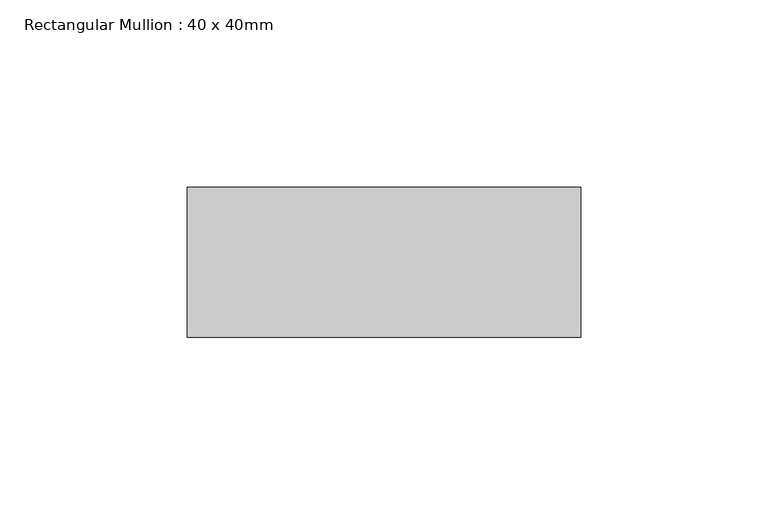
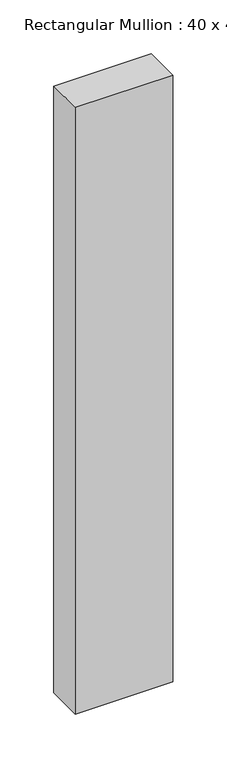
"""IFC4 building model written with IfcOpenShell, lengths in millimetres: member geometry, Rectangular Mullion : 40 x 40mm."""

from ifc_helpers import new_model, si_unit, frame, origin, place, context, project, spatial, polyline, outline, extrude, source, transform, mapped, element, save


def rectangular_mullion_40_x_40mm_43d5a151(model_context):
    return source(origin(), model_context, "Body", "SweptSolid", [
        extrude(outline(polyline([(80.0, -20.0), (80.0, -60.0), (-25.0, -60.0), (-25.0, -20.0), (80.0, -20.0)])), frame((0.0, 0.0, -690.0), z_axis=(0.0, 0.0, 1.0), x_axis=(1.0, 0.0, 0.0)), (0.0, 0.0, 1.0), 690.0),
    ])


if __name__ == "__main__":
    model = new_model("IFC4")
    model_context = context("Model", 3, world=origin())
    ifc_project = project(units=[si_unit("LENGTHUNIT", "METRE", prefix="MILLI")], contexts=[model_context])
    site = spatial("IfcSite", under=ifc_project)
    building = spatial("IfcBuilding", under=site)
    placement = place(None, origin())
    rectangular_mullion_40_x_40mm_shape = rectangular_mullion_40_x_40mm_43d5a151(model_context)
    element("IfcMember", 1, ObjectType="Rectangular Mullion : 40 x 40mm", at=placement, inside=building, context=model_context, shape_type="MappedRepresentation", body=[
        mapped(rectangular_mullion_40_x_40mm_shape, transform((0.0, 0.0, 0.0), x_axis=(1.0, 0.0, 0.0), y_axis=(0.0, 1.0, 0.0), z_axis=(0.0, 0.0, 1.0))),
    ])
    save(model, "model.ifc")
